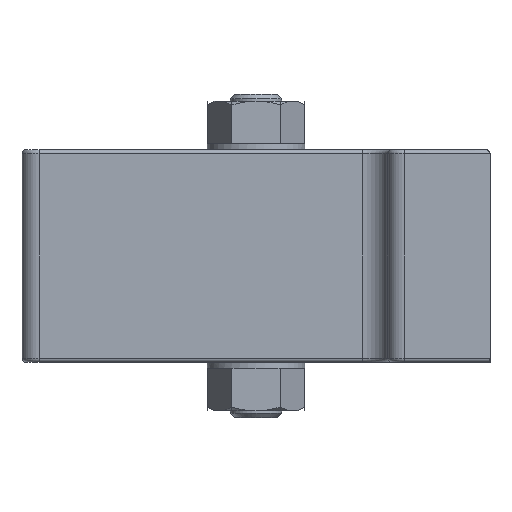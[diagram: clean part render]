
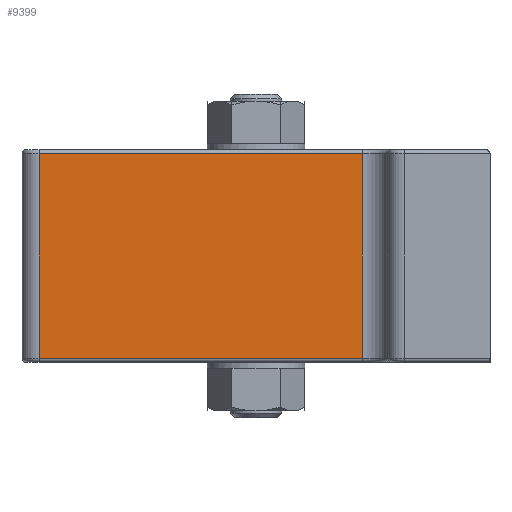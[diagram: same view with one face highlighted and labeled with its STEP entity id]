
A CAD part, left-side view. The second image highlights one B-rep face of the part: STEP entity #9399.
In plain terms, the highlighted planar face has unit normal (-1, 0, 0).
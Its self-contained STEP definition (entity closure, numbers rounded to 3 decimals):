
#9080=CARTESIAN_POINT('',(-27.5,25.5,-12.0));
#9081=VERTEX_POINT('',#9080);
#9146=CARTESIAN_POINT('',(-27.5,-12.5,-12.0));
#9147=VERTEX_POINT('',#9146);
#9155=CARTESIAN_POINT('',(-27.5,-12.5,-12.0));
#9156=DIRECTION('',(0.0,1.0,0.0));
#9157=VECTOR('',#9156,38.);
#9158=LINE('',#9155,#9157);
#9159=EDGE_CURVE('',#9147,#9081,#9158,.T.);
#9369=CARTESIAN_POINT('',(-27.5,-12.5,0.0));
#9370=DIRECTION('',(-1.0,0.0,0.0));
#9371=DIRECTION('',(0.0,0.0,1.0));
#9372=AXIS2_PLACEMENT_3D('',#9369,#9370,#9371);
#9373=PLANE('',#9372);
#9374=ORIENTED_EDGE('',*,*,#9159,.F.);
#9375=CARTESIAN_POINT('',(-27.5,-12.5,12.0));
#9376=VERTEX_POINT('',#9375);
#9377=CARTESIAN_POINT('',(-27.5,-12.5,12.0));
#9378=DIRECTION('',(0.0,0.0,-1.0));
#9379=VECTOR('',#9378,24.0);
#9380=LINE('',#9377,#9379);
#9381=EDGE_CURVE('',#9376,#9147,#9380,.T.);
#9382=ORIENTED_EDGE('',*,*,#9381,.F.);
#9383=CARTESIAN_POINT('',(-27.5,25.5,12.0));
#9384=VERTEX_POINT('',#9383);
#9385=CARTESIAN_POINT('',(-27.5,25.5,12.0));
#9386=DIRECTION('',(0.0,-1.0,0.0));
#9387=VECTOR('',#9386,38.);
#9388=LINE('',#9385,#9387);
#9389=EDGE_CURVE('',#9384,#9376,#9388,.T.);
#9390=ORIENTED_EDGE('',*,*,#9389,.F.);
#9391=CARTESIAN_POINT('',(-27.5,25.5,12.0));
#9392=DIRECTION('',(0.0,0.0,-1.0));
#9393=VECTOR('',#9392,24.0);
#9394=LINE('',#9391,#9393);
#9395=EDGE_CURVE('',#9384,#9081,#9394,.T.);
#9396=ORIENTED_EDGE('',*,*,#9395,.T.);
#9397=EDGE_LOOP('',(#9374,#9382,#9390,#9396));
#9398=FACE_OUTER_BOUND('',#9397,.T.);
#9399=ADVANCED_FACE('',(#9398),#9373,.T.);
